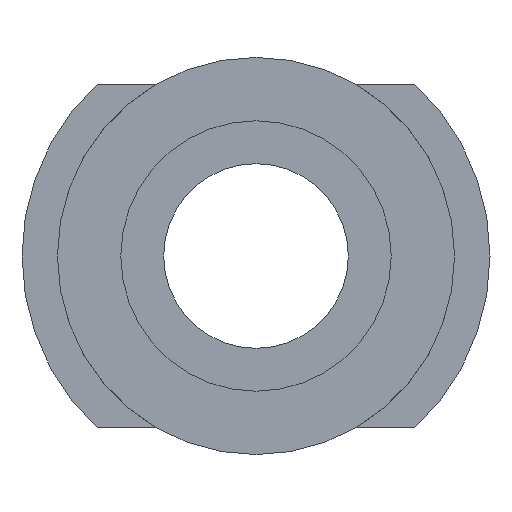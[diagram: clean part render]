
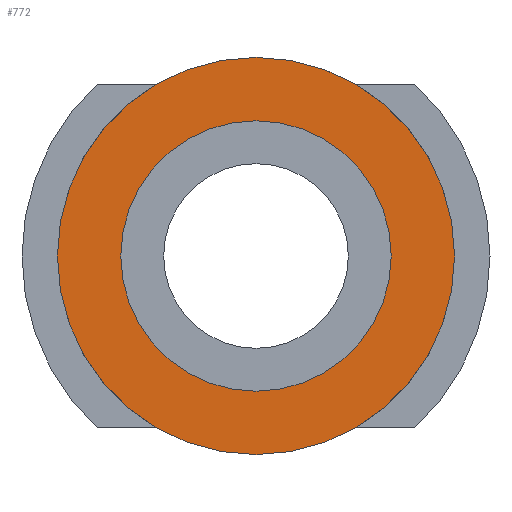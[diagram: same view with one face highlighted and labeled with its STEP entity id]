
A CAD part, left-side view. The second image highlights one B-rep face of the part: STEP entity #772.
In plain terms, the highlighted planar face has unit normal (-1, 0, 0).
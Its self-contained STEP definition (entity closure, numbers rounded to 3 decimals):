
#21 = AXIS2_PLACEMENT_3D ( 'NONE', #698, #699, #700 ) ;
#23 = AXIS2_PLACEMENT_3D ( 'NONE', #704, #705, #706 ) ;
#57 = FACE_OUTER_BOUND ( 'NONE', #277, .T. ) ;
#62 = FACE_BOUND ( 'NONE', #278, .T. ) ;
#63 = AXIS2_PLACEMENT_3D ( 'NONE', #485, #486, #487 ) ;
#277 = EDGE_LOOP ( 'NONE', ( #338 ) ) ;
#278 = EDGE_LOOP ( 'NONE', ( #341 ) ) ;
#338 = ORIENTED_EDGE ( 'NONE', *, *, #837, .F. ) ;
#341 = ORIENTED_EDGE ( 'NONE', *, *, #839, .T. ) ;
#484 = PLANE ( 'NONE',  #63 ) ;
#485 = CARTESIAN_POINT ( 'NONE',  ( -16.5, 0., 4.625 ) ) ;
#486 = DIRECTION ( 'NONE',  ( 1., 0., 0. ) ) ;
#487 = DIRECTION ( 'NONE',  ( 0., 0., -1. ) ) ;
#698 = CARTESIAN_POINT ( 'NONE',  ( -16.5, 0., 0. ) ) ;
#699 = DIRECTION ( 'NONE',  ( 1., 0., 0. ) ) ;
#700 = DIRECTION ( 'NONE',  ( 0., 0., -1. ) ) ;
#704 = CARTESIAN_POINT ( 'NONE',  ( -16.5, 0., 0. ) ) ;
#705 = DIRECTION ( 'NONE',  ( 1., 0., 0. ) ) ;
#706 = DIRECTION ( 'NONE',  ( 0., 0., -1. ) ) ;
#772 = ADVANCED_FACE ( 'NONE', ( #57, #62 ), #484, .F. ) ;
#837 = EDGE_CURVE ( 'NONE', #940, #940, #880, .T. ) ;
#839 = EDGE_CURVE ( 'NONE', #944, #944, #882, .T. ) ;
#880 = CIRCLE ( 'NONE', #21, 4.625 ) ;
#882 = CIRCLE ( 'NONE', #23, 3.15 ) ;
#940 = VERTEX_POINT ( 'NONE', #941 ) ;
#941 = CARTESIAN_POINT ( 'NONE',  ( -16.5, 0., -4.625 ) ) ;
#944 = VERTEX_POINT ( 'NONE', #945 ) ;
#945 = CARTESIAN_POINT ( 'NONE',  ( -16.5, 0., -3.15 ) ) ;
